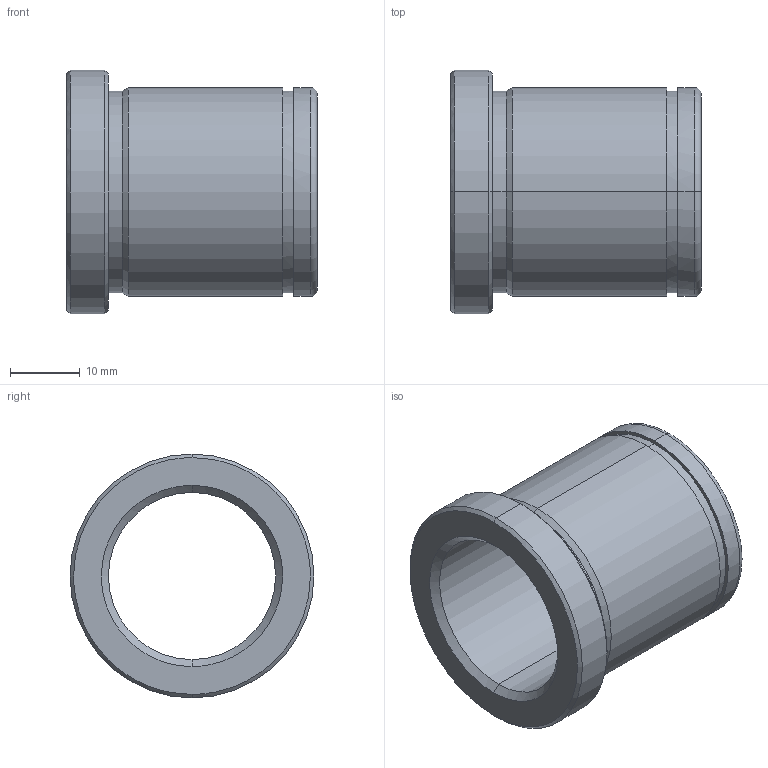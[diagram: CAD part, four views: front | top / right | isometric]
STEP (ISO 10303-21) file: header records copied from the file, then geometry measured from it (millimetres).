
FILE_DESCRIPTION(('CATIA V5 STEP Exchange'),'2;1');
FILE_NAME('C:\Users\Utente\Desktop\IO LAVORO\3D X SITO CF\X SITO\PLASTICA\553\553-24X36.stp','2021-05-25T18:23:24+00:00',('none'),('none'),'CATIA Version 5 Release 20 GA (IN-10)','CATIA V5 STEP AP203','none');
FILE_SCHEMA(('CONFIG_CONTROL_DESIGN'));
Length unit declared in the file: millimetre
Products named in the file (1): 553-24X36
Bounding box: 36 x 35 x 35 mm (x, y, z)
Volume: 10382.1 mm3; surface area: 7163.4 mm2
Topology: 1 solids, 1 shells, 29 faces, 92 edges, 68 vertices
Faces by surface type: cylinder 12, cone 8, plane 5, torus 4
Entity records: 1222 total; most frequent: CARTESIAN_POINT 368, ORIENTED_EDGE 184, DIRECTION 136, EDGE_CURVE 92, AXIS2_PLACEMENT_3D 88, VERTEX_POINT 68, CIRCLE 58, EDGE_LOOP 34
